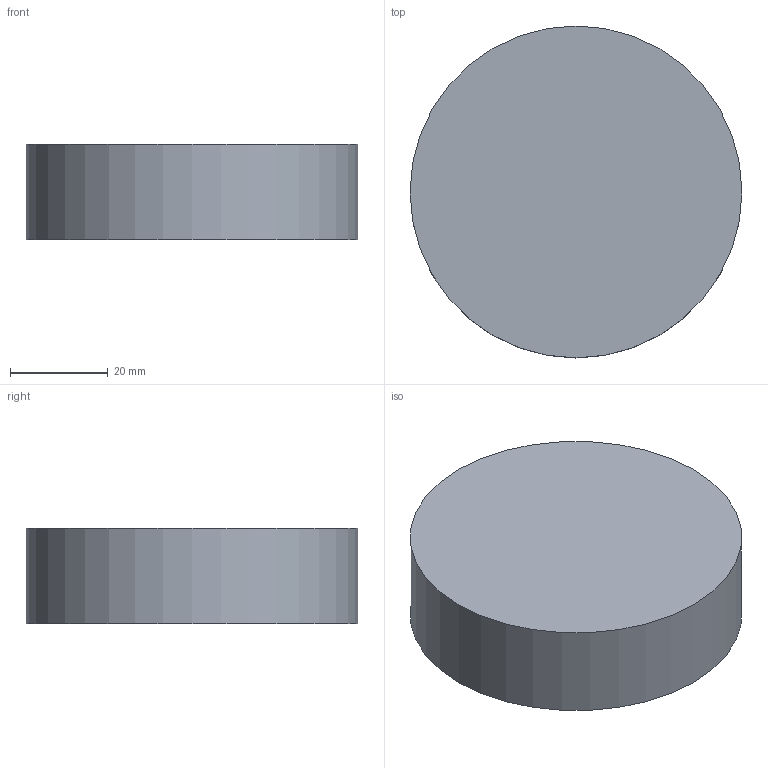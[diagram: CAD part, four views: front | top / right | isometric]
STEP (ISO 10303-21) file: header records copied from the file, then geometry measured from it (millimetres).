
FILE_DESCRIPTION(('Open CASCADE Model'),'2;1');
FILE_NAME('Open CASCADE Shape Model','2026-10-10T15:34:57',('Author'),( 'Open CASCADE'),'Open CASCADE STEP processor 7.9','Open CASCADE 7.9' ,'Unknown');
FILE_SCHEMA(('AUTOMOTIVE_DESIGN { 1 0 10303 214 1 1 1 1 }'));
Length unit declared in the file: millimetre
Products named in the file (1): Open CASCADE STEP translator 7.9 20
Bounding box: 68 x 68 x 19.5 mm (x, y, z)
Volume: 70817.8 mm3; surface area: 11429.1 mm2
Topology: 1 solids, 1 shells, 3 faces, 3 edges, 2 vertices
Faces by surface type: plane 2, cylinder 1
Full cylindrical faces by diameter (mm): 68 x1
Entity records: 108 total; most frequent: DIRECTION 19, CARTESIAN_POINT 15, AXIS2_PLACEMENT_3D 6, ORIENTED_EDGE 6, PCURVE 6, DEFINITIONAL_REPRESENTATION 6, LINE 5, VECTOR 5
